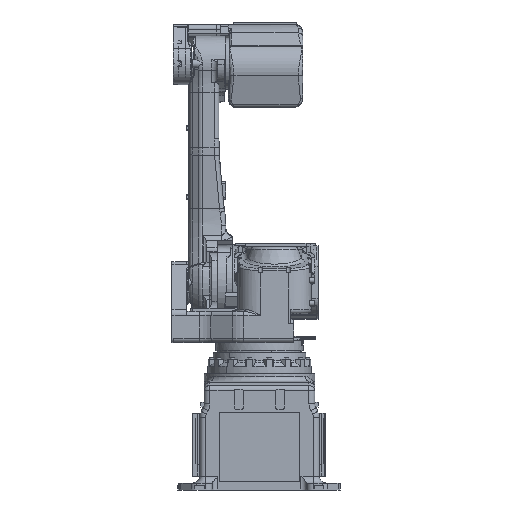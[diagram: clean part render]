
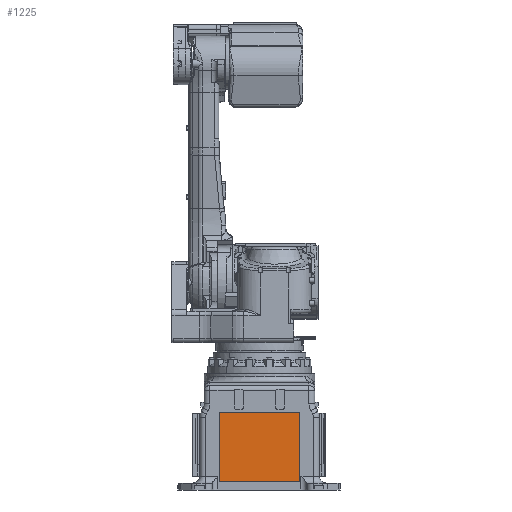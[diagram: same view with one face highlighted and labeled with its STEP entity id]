
A CAD part, front view. The second image highlights one B-rep face of the part: STEP entity #1225.
In plain terms, the highlighted planar face has unit normal (0, -1, 0).
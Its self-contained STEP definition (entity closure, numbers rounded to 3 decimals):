
#1186=CARTESIAN_POINT('Axis2P3D Location',(0.,-411.,185.)) ;
#1191=CARTESIAN_POINT('Line Origine',(0.,-411.,335.)) ;
#1195=CARTESIAN_POINT('Vertex',(175.,-411.,335.)) ;
#1197=CARTESIAN_POINT('Vertex',(-175.,-411.,335.)) ;
#1200=CARTESIAN_POINT('Line Origine',(-175.,-411.,185.)) ;
#1204=CARTESIAN_POINT('Vertex',(-175.,-411.,35.)) ;
#1207=CARTESIAN_POINT('Line Origine',(0.,-411.,35.)) ;
#1211=CARTESIAN_POINT('Vertex',(175.,-411.,35.)) ;
#1214=CARTESIAN_POINT('Line Origine',(175.,-411.,185.)) ;
#1187=DIRECTION('Axis2P3D Direction',(0.,-1.,0.)) ;
#1188=DIRECTION('Axis2P3D XDirection',(1.,0.,0.)) ;
#1192=DIRECTION('Vector Direction',(1.,0.,0.)) ;
#1201=DIRECTION('Vector Direction',(0.,0.,1.)) ;
#1208=DIRECTION('Vector Direction',(-1.,0.,0.)) ;
#1215=DIRECTION('Vector Direction',(0.,0.,-1.)) ;
#1189=AXIS2_PLACEMENT_3D('Plane Axis2P3D',#1186,#1187,#1188) ;
#1220=ORIENTED_EDGE('',*,*,#1199,.T.) ;
#1221=ORIENTED_EDGE('',*,*,#1206,.T.) ;
#1222=ORIENTED_EDGE('',*,*,#1213,.T.) ;
#1223=ORIENTED_EDGE('',*,*,#1218,.T.) ;
#1193=VECTOR('Line Direction',#1192,1.) ;
#1202=VECTOR('Line Direction',#1201,1.) ;
#1209=VECTOR('Line Direction',#1208,1.) ;
#1216=VECTOR('Line Direction',#1215,1.) ;
#1225=ADVANCED_FACE('\X2\FF8EFF9EFF83FF9EFF68FF70\X0\.138',(#1224),#1190,.T.) ;
#1199=EDGE_CURVE('',#1196,#1198,#1194,.F.) ;
#1206=EDGE_CURVE('',#1198,#1205,#1203,.F.) ;
#1213=EDGE_CURVE('',#1205,#1212,#1210,.F.) ;
#1218=EDGE_CURVE('',#1212,#1196,#1217,.F.) ;
#1219=EDGE_LOOP('',(#1220,#1221,#1222,#1223)) ;
#1224=FACE_OUTER_BOUND('',#1219,.T.) ;
#1194=LINE('Line',#1191,#1193) ;
#1203=LINE('Line',#1200,#1202) ;
#1210=LINE('Line',#1207,#1209) ;
#1217=LINE('Line',#1214,#1216) ;
#1190=PLANE('',#1189) ;
#1196=VERTEX_POINT('',#1195) ;
#1198=VERTEX_POINT('',#1197) ;
#1205=VERTEX_POINT('',#1204) ;
#1212=VERTEX_POINT('',#1211) ;
